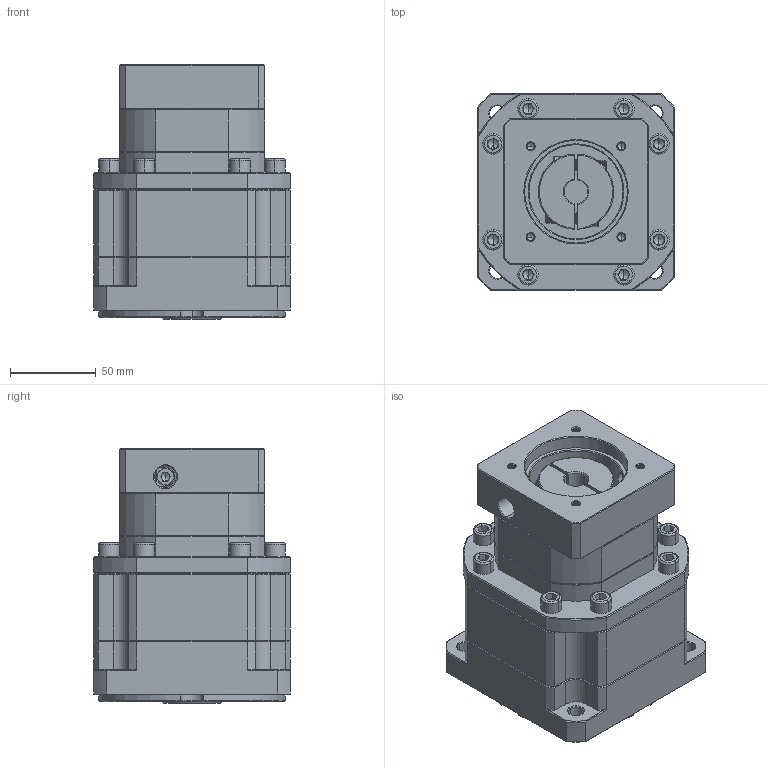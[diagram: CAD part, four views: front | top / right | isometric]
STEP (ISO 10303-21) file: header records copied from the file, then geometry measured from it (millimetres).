
FILE_DESCRIPTION (( 'STEP AP214' ), '1' );
FILE_NAME ('ZB115A-K25-L2-14-60-75-M5.step', '2023-03-03T09:57:34', ( '' ), ( 'Microsoft' ), 'SwSTEP 2.0', 'SolidWorks 2016', '' );
FILE_SCHEMA (( 'AUTOMOTIVE_DESIGN' ));
Length unit declared in the file: millimetre
Products named in the file (1): ZB115A-K25-L2-14-60-75-M5
Bounding box: 115 x 115 x 149 mm (x, y, z)
Volume: 1325793.8 mm3; surface area: 130305.9 mm2
Topology: 5 solids, 6 shells, 2085 faces, 5378 edges, 3390 vertices
Faces by surface type: plane 999, cylinder 393, cone 358, bspline 320, torus 15
Entity records: 107203 total; most frequent: CARTESIAN_POINT 36202, ORIENTED_EDGE 10684, DIRECTION 8818, EDGE_CURVE 5342, VERTEX_POINT 3390, LINE 3370, VECTOR 3370, AXIS2_PLACEMENT_3D 2724
